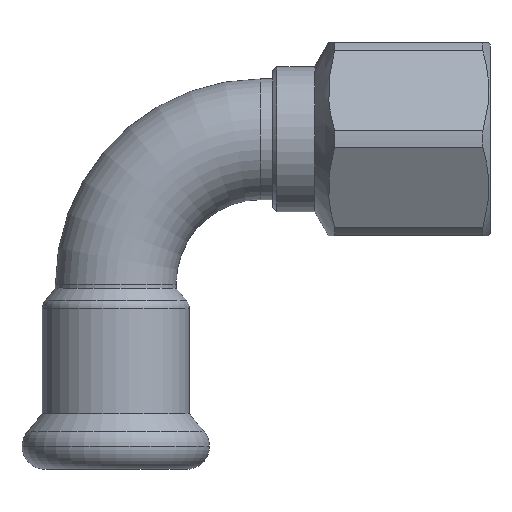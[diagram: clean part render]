
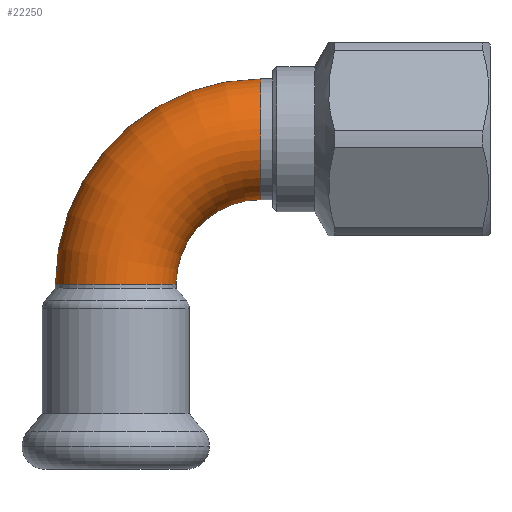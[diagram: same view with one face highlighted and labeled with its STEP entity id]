
A CAD part, top view. The second image highlights one B-rep face of the part: STEP entity #22250.
In plain terms, the highlighted toroidal (fillet/blend) face has major radius 18 mm and minor radius 7.5 mm.
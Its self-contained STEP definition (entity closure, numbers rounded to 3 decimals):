
#15780=CARTESIAN_POINT('',(-83.071,28.74,
0.));
#15790=VERTEX_POINT('',#15780);
#15870=CARTESIAN_POINT('',(-83.071,13.74,
0.));
#15880=VERTEX_POINT('',#15870);
#17020=CARTESIAN_POINT('',(-93.571,3.24,
0.));
#17030=VERTEX_POINT('',#17020);
#17080=CARTESIAN_POINT('',(-101.071,3.24,0.));
#17090=DIRECTION('',(0.,-1.,0.));
#17100=DIRECTION('',(1.,0.,0.));
#17110=AXIS2_PLACEMENT_3D('',#17080,#17090,#17100);
#17120=CIRCLE('',#17110,7.5);
#17130=CARTESIAN_POINT('',(-108.571,3.24,
0.));
#17140=VERTEX_POINT('',#17130);
#17350=CARTESIAN_POINT('',(-83.071,3.24,
0.));
#17360=DIRECTION('',(0.,0.,1.));
#17370=DIRECTION('',(0.,1.,0.));
#17380=AXIS2_PLACEMENT_3D('',#17350,#17360,#17370);
#17390=TOROIDAL_SURFACE('',#17380,18.,7.5);
#17400=CARTESIAN_POINT('',(-83.071,3.24,
0.));
#17410=DIRECTION('',(0.,0.,1.));
#17420=DIRECTION('',(0.,1.,0.));
#17430=AXIS2_PLACEMENT_3D('',#17400,#17410,#17420);
#17440=CIRCLE('',#17430,10.5);
#17450=EDGE_CURVE('',#15880,#17030,#17440,.T.);
#17480=CARTESIAN_POINT('',(-83.071,3.24,
0.));
#17490=DIRECTION('',(0.,0.,1.));
#17500=DIRECTION('',(0.,1.,0.));
#17510=AXIS2_PLACEMENT_3D('',#17480,#17490,#17500);
#17520=CIRCLE('',#17510,25.5);
#17530=EDGE_CURVE('',#15790,#17140,#17520,.T.);
#21970=CARTESIAN_POINT('',(-83.071,21.24,
0.));
#21980=DIRECTION('',(-1.,0.,0.));
#21990=DIRECTION('',(0.,-1.,0.));
#22000=AXIS2_PLACEMENT_3D('',#21970,#21980,#21990);
#22010=CIRCLE('',#22000,7.5);
#22020=EDGE_CURVE('',#15880,#15790,#22010,.T.);
#22180=EDGE_CURVE('',#17030,#17140,#17120,.T.);
#22190=ORIENTED_EDGE('',*,*,#22180,.F.);
#22200=ORIENTED_EDGE('',*,*,#17530,.T.);
#22210=ORIENTED_EDGE('',*,*,#22020,.T.);
#22220=ORIENTED_EDGE('',*,*,#17450,.F.);
#22230=EDGE_LOOP('',(#22220,#22210,#22200,#22190));
#22240=FACE_OUTER_BOUND('',#22230,.T.);
#22250=ADVANCED_FACE('',(#22240),#17390,.T.);
